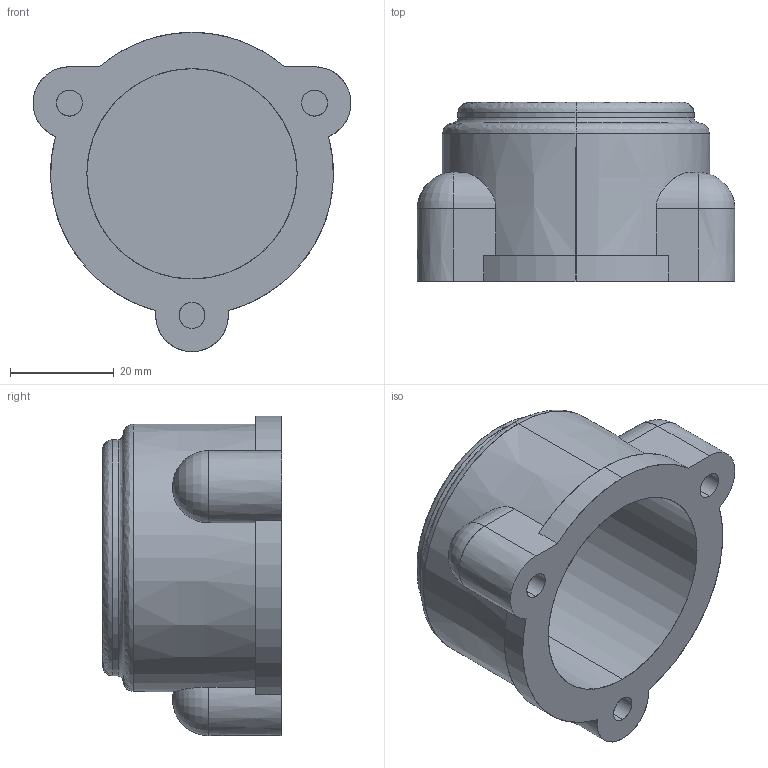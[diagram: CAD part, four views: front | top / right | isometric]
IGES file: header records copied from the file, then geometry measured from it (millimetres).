
Start section: SolidWorks IGES FILE using analytic representation for surfaces
Global section: file name: Y:\CONTENTCENTRAL\Base\cache\BADEFAU061420033136.igs; native system: SolidWorks 2003 by SolidWorks Corporation; preprocessor: Version 5.3; author: PartStream; date: 030614.030952; units: millimetre
Bounding box: 61.2 x 34.5 x 61.5 mm (x, y, z)
Surface area: 15401.9 mm2 (no closed solid volume)
Topology: 0 solids, 0 shells, 43 faces, 858 edges, 858 vertices
Faces by surface type: revolution 26, bspline 17
